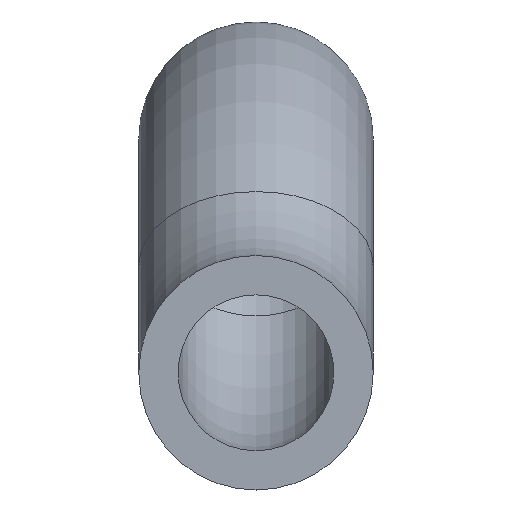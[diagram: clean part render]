
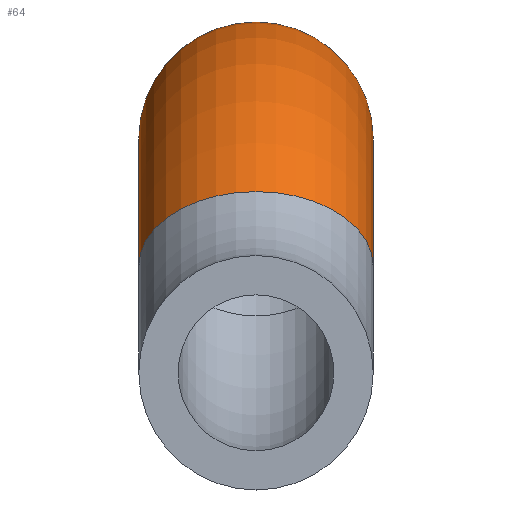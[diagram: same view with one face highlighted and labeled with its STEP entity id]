
A CAD part, front view. The second image highlights one B-rep face of the part: STEP entity #64.
In plain terms, the highlighted toroidal (fillet/blend) face has major radius 60 mm and minor radius 20 mm.
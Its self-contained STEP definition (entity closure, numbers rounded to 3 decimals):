
#64=ADVANCED_FACE('',(#164,#166),#168,.T.);
#164=FACE_OUTER_BOUND('',#165,.T.);
#165=EDGE_LOOP('',(#195));
#166=FACE_OUTER_BOUND('',#167,.T.);
#167=EDGE_LOOP('',(#196));
#168=TOROIDAL_SURFACE('',#169,60.,20.);
#169=AXIS2_PLACEMENT_3D('',#170,#171,#172);
#170=CARTESIAN_POINT('',(0.,0.,-20.));
#171=DIRECTION('',(1.,0.,0.));
#172=DIRECTION('',(0.,0.771,0.636));
#195=ORIENTED_EDGE('',*,*,#207,.T.);
#196=ORIENTED_EDGE('',*,*,#208,.F.);
#207=EDGE_CURVE('',#229,#229,#230,.T.);
#208=EDGE_CURVE('',#231,#231,#232,.T.);
#229=VERTEX_POINT('',#283);
#230=CIRCLE('',#284,20.);
#231=VERTEX_POINT('',#288);
#232=CIRCLE('',#289,20.);
#283=CARTESIAN_POINT('',(-20.,46.283,18.182));
#284=AXIS2_PLACEMENT_3D('',#285,#286,#287);
#285=CARTESIAN_POINT('',(0.,46.283,18.182));
#286=DIRECTION('',(0.,-0.636,0.771));
#287=DIRECTION('',(-1.,0.,0.));
#288=CARTESIAN_POINT('',(-20.,-46.283,18.182));
#289=AXIS2_PLACEMENT_3D('',#290,#291,#292);
#290=CARTESIAN_POINT('',(0.,-46.283,18.182));
#291=DIRECTION('',(0.,-0.636,-0.771));
#292=DIRECTION('',(-1.,0.,0.));
